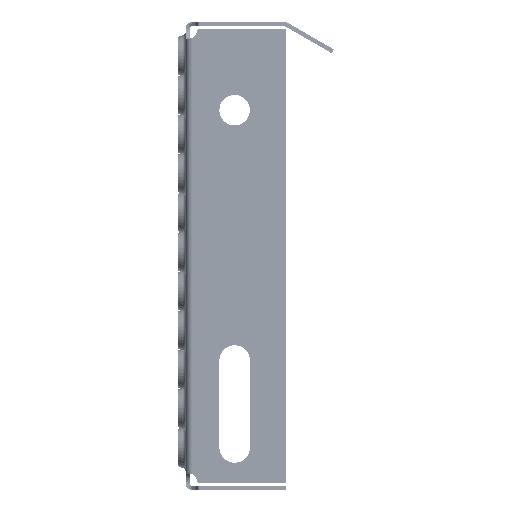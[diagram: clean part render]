
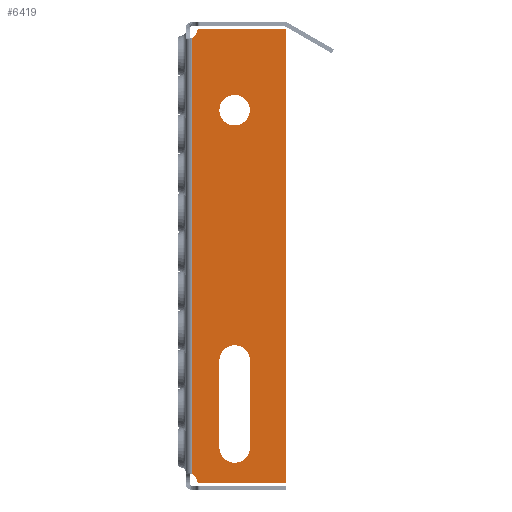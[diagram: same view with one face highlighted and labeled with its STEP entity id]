
A CAD part, left-side view. The second image highlights one B-rep face of the part: STEP entity #6419.
In plain terms, the highlighted planar face has unit normal (-1, 0, 0).
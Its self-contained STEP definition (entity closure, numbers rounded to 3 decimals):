
#335 = DIRECTION ( 'NONE',  ( 1., 0., 0. ) ) ;
#609 = CIRCLE ( 'NONE', #28139, 1. ) ;
#826 = CARTESIAN_POINT ( 'NONE',  ( -700., -3., 87.67 ) ) ;
#1204 = DIRECTION ( 'NONE',  ( 0., 0., -1. ) ) ;
#2207 = LINE ( 'NONE', #41258, #13156 ) ;
#2552 = ORIENTED_EDGE ( 'NONE', *, *, #49429, .T. ) ;
#3179 = ORIENTED_EDGE ( 'NONE', *, *, #21281, .T. ) ;
#3187 = EDGE_LOOP ( 'NONE', ( #58833 ) ) ;
#3471 = DIRECTION ( 'NONE',  ( 0., 0., -1. ) ) ;
#3969 = ORIENTED_EDGE ( 'NONE', *, *, #12190, .F. ) ;
#4133 = VERTEX_POINT ( 'NONE', #39826 ) ;
#4407 = VERTEX_POINT ( 'NONE', #18481 ) ;
#5767 = VERTEX_POINT ( 'NONE', #46534 ) ;
#6073 = DIRECTION ( 'NONE',  ( 1., 0., 0. ) ) ;
#6095 = CIRCLE ( 'NONE', #12676, 7. ) ;
#6303 = EDGE_CURVE ( 'NONE', #4133, #23268, #56062, .T. ) ;
#6419 = ADVANCED_FACE ( 'NONE', ( #48762, #22632, #47302 ), #34947, .F. ) ;
#6564 = DIRECTION ( 'NONE',  ( 0., 0., 1. ) ) ;
#7090 = VERTEX_POINT ( 'NONE', #39544 ) ;
#7702 = VERTEX_POINT ( 'NONE', #42287 ) ;
#8890 = EDGE_CURVE ( 'NONE', #50054, #25770, #28213, .T. ) ;
#9278 = DIRECTION ( 'NONE',  ( 0., 0., 1. ) ) ;
#9550 = AXIS2_PLACEMENT_3D ( 'NONE', #56864, #29035, #1204 ) ;
#9673 = CIRCLE ( 'NONE', #20038, 7. ) ;
#9855 = CARTESIAN_POINT ( 'NONE',  ( -700., -6.416, -117. ) ) ;
#10309 = CARTESIAN_POINT ( 'NONE',  ( -700., -46., -117. ) ) ;
#10696 = DIRECTION ( 'NONE',  ( -1., 0., 0. ) ) ;
#11047 = DIRECTION ( 'NONE',  ( -1., 0., 0. ) ) ;
#11119 = EDGE_LOOP ( 'NONE', ( #36868, #52663, #31578, #32499 ) ) ;
#12039 = VERTEX_POINT ( 'NONE', #31571 ) ;
#12190 = EDGE_CURVE ( 'NONE', #12039, #25770, #30068, .T. ) ;
#12393 = EDGE_CURVE ( 'NONE', #19241, #4133, #6095, .T. ) ;
#12676 = AXIS2_PLACEMENT_3D ( 'NONE', #14140, #46583, #18797 ) ;
#13156 = VECTOR ( 'NONE', #13449, 1000. ) ;
#13320 = CARTESIAN_POINT ( 'NONE',  ( -700., -5.43, -116.167 ) ) ;
#13449 = DIRECTION ( 'NONE',  ( 0., 1., 0. ) ) ;
#14132 = DIRECTION ( 'NONE',  ( -1., 0., 0. ) ) ;
#14140 = CARTESIAN_POINT ( 'NONE',  ( -700., -22.5, -100.5 ) ) ;
#16503 = DIRECTION ( 'NONE',  ( 0., 0., -1. ) ) ;
#17101 = CARTESIAN_POINT ( 'NONE',  ( -700., -29.5, -60.5 ) ) ;
#17529 = CARTESIAN_POINT ( 'NONE',  ( -700., -15.5, -60.5 ) ) ;
#18481 = CARTESIAN_POINT ( 'NONE',  ( -700., -15.5, -60.5 ) ) ;
#18568 = ORIENTED_EDGE ( 'NONE', *, *, #8890, .T. ) ;
#18797 = DIRECTION ( 'NONE',  ( 0., 0., -1. ) ) ;
#19213 = VECTOR ( 'NONE', #9278, 1000. ) ;
#19241 = VERTEX_POINT ( 'NONE', #35983 ) ;
#19587 = EDGE_CURVE ( 'NONE', #23268, #4407, #27038, .T. ) ;
#20038 = AXIS2_PLACEMENT_3D ( 'NONE', #38487, #10696, #43148 ) ;
#20222 = EDGE_CURVE ( 'NONE', #54305, #7090, #58237, .T. ) ;
#20991 = EDGE_CURVE ( 'NONE', #35825, #50054, #42937, .T. ) ;
#21281 = EDGE_CURVE ( 'NONE', #7090, #35825, #2207, .T. ) ;
#22632 = FACE_BOUND ( 'NONE', #3187, .T. ) ;
#23268 = VERTEX_POINT ( 'NONE', #17101 ) ;
#23745 = EDGE_LOOP ( 'NONE', ( #3969, #54013, #27376, #2552, #32623, #3179, #33391, #18568 ) ) ;
#25035 = CARTESIAN_POINT ( 'NONE',  ( -700., -29.5, -60.5 ) ) ;
#25770 = VERTEX_POINT ( 'NONE', #826 ) ;
#27038 = CIRCLE ( 'NONE', #9550, 7. ) ;
#27376 = ORIENTED_EDGE ( 'NONE', *, *, #55851, .T. ) ;
#28139 = AXIS2_PLACEMENT_3D ( 'NONE', #41917, #14132, #46576 ) ;
#28173 = CARTESIAN_POINT ( 'NONE',  ( -700., -0.5, -117. ) ) ;
#28213 = CIRCLE ( 'NONE', #48192, 5. ) ;
#29035 = DIRECTION ( 'NONE',  ( -1., 0., 0. ) ) ;
#30068 = LINE ( 'NONE', #55556, #19213 ) ;
#31571 = CARTESIAN_POINT ( 'NONE',  ( -700., -3., -112.67 ) ) ;
#31578 = ORIENTED_EDGE ( 'NONE', *, *, #6303, .F. ) ;
#31696 = VERTEX_POINT ( 'NONE', #13320 ) ;
#32499 = ORIENTED_EDGE ( 'NONE', *, *, #12393, .F. ) ;
#32623 = ORIENTED_EDGE ( 'NONE', *, *, #20222, .T. ) ;
#32833 = DIRECTION ( 'NONE',  ( 0., 0., -1. ) ) ;
#32911 = CARTESIAN_POINT ( 'NONE',  ( -700., -5.43, 91.167 ) ) ;
#33391 = ORIENTED_EDGE ( 'NONE', *, *, #20991, .T. ) ;
#33636 = DIRECTION ( 'NONE',  ( 0., 0., 1. ) ) ;
#33884 = CARTESIAN_POINT ( 'NONE',  ( -700., -0.5, 92. ) ) ;
#34755 = CARTESIAN_POINT ( 'NONE',  ( -700., -46., -117. ) ) ;
#34947 = PLANE ( 'NONE',  #43406 ) ;
#35388 = EDGE_CURVE ( 'NONE', #7702, #7702, #9673, .T. ) ;
#35825 = VERTEX_POINT ( 'NONE', #55319 ) ;
#35983 = CARTESIAN_POINT ( 'NONE',  ( -700., -15.5, -100.5 ) ) ;
#36868 = ORIENTED_EDGE ( 'NONE', *, *, #51901, .F. ) ;
#38069 = LINE ( 'NONE', #17529, #50410 ) ;
#38487 = CARTESIAN_POINT ( 'NONE',  ( -700., -22.5, 54.5 ) ) ;
#38548 = DIRECTION ( 'NONE',  ( 0., 0., -1. ) ) ;
#38832 = CARTESIAN_POINT ( 'NONE',  ( -700., -6.416, 91. ) ) ;
#39544 = CARTESIAN_POINT ( 'NONE',  ( -700., -46., 92. ) ) ;
#39826 = CARTESIAN_POINT ( 'NONE',  ( -700., -29.5, -100.5 ) ) ;
#40120 = VECTOR ( 'NONE', #42301, 1000. ) ;
#41258 = CARTESIAN_POINT ( 'NONE',  ( -700., -46., 92. ) ) ;
#41917 = CARTESIAN_POINT ( 'NONE',  ( -700., -6.416, -116. ) ) ;
#42287 = CARTESIAN_POINT ( 'NONE',  ( -700., -22.5, 47.5 ) ) ;
#42301 = DIRECTION ( 'NONE',  ( 0., -1., 0. ) ) ;
#42921 = VECTOR ( 'NONE', #33636, 1000. ) ;
#42937 = CIRCLE ( 'NONE', #56331, 1. ) ;
#43148 = DIRECTION ( 'NONE',  ( 0., 0., -1. ) ) ;
#43406 = AXIS2_PLACEMENT_3D ( 'NONE', #53422, #44285, #16503 ) ;
#43501 = DIRECTION ( 'NONE',  ( 0., 0., 1. ) ) ;
#44285 = DIRECTION ( 'NONE',  ( 1., 0., 0. ) ) ;
#46299 = EDGE_CURVE ( 'NONE', #12039, #31696, #49937, .T. ) ;
#46534 = CARTESIAN_POINT ( 'NONE',  ( -700., -6.416, -117. ) ) ;
#46576 = DIRECTION ( 'NONE',  ( 0., 0., -1. ) ) ;
#46583 = DIRECTION ( 'NONE',  ( -1., 0., 0. ) ) ;
#47302 = FACE_BOUND ( 'NONE', #11119, .T. ) ;
#48192 = AXIS2_PLACEMENT_3D ( 'NONE', #33884, #6073, #38548 ) ;
#48762 = FACE_OUTER_BOUND ( 'NONE', #23745, .T. ) ;
#49429 = EDGE_CURVE ( 'NONE', #5767, #54305, #52444, .T. ) ;
#49808 = AXIS2_PLACEMENT_3D ( 'NONE', #28173, #335, #32833 ) ;
#49937 = CIRCLE ( 'NONE', #49808, 5. ) ;
#50054 = VERTEX_POINT ( 'NONE', #32911 ) ;
#50410 = VECTOR ( 'NONE', #3471, 1000. ) ;
#51901 = EDGE_CURVE ( 'NONE', #4407, #19241, #38069, .T. ) ;
#52444 = LINE ( 'NONE', #9855, #40120 ) ;
#52663 = ORIENTED_EDGE ( 'NONE', *, *, #19587, .F. ) ;
#53132 = VECTOR ( 'NONE', #6564, 1000. ) ;
#53422 = CARTESIAN_POINT ( 'NONE',  ( -700., 0.5, -122.916 ) ) ;
#54013 = ORIENTED_EDGE ( 'NONE', *, *, #46299, .T. ) ;
#54305 = VERTEX_POINT ( 'NONE', #34755 ) ;
#55319 = CARTESIAN_POINT ( 'NONE',  ( -700., -6.416, 92. ) ) ;
#55556 = CARTESIAN_POINT ( 'NONE',  ( -700., -3., -122.916 ) ) ;
#55851 = EDGE_CURVE ( 'NONE', #31696, #5767, #609, .T. ) ;
#56062 = LINE ( 'NONE', #25035, #53132 ) ;
#56331 = AXIS2_PLACEMENT_3D ( 'NONE', #38832, #11047, #43501 ) ;
#56864 = CARTESIAN_POINT ( 'NONE',  ( -700., -22.5, -60.5 ) ) ;
#58237 = LINE ( 'NONE', #10309, #42921 ) ;
#58833 = ORIENTED_EDGE ( 'NONE', *, *, #35388, .F. ) ;
